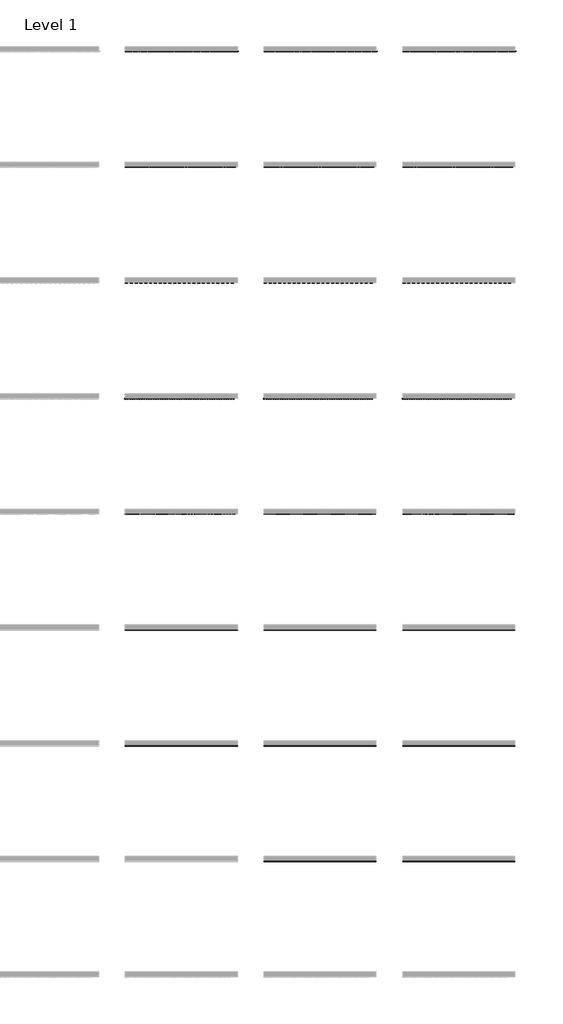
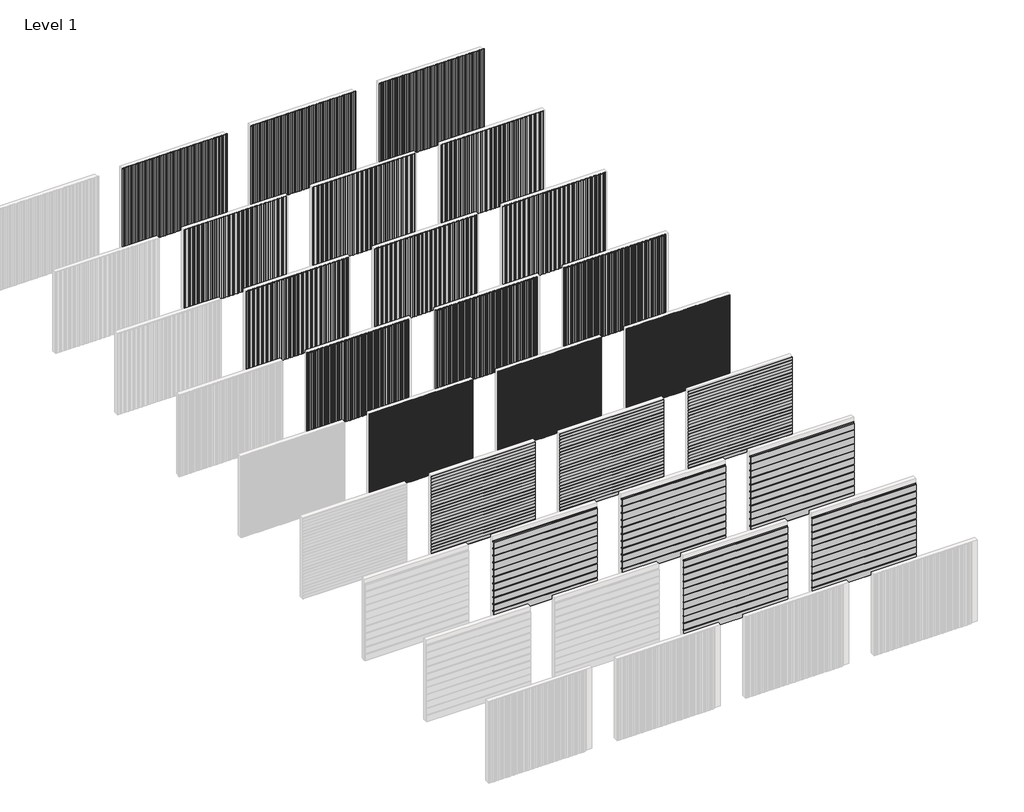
# One storey, part 33 of 33: 23 proxies.
"""IFC4 building model written with IfcOpenShell, lengths in millimetres."""

from ifc_helpers import new_model, si_unit, origin, place, context, project, spatial, transform, mapped, element, save
from components import aluminum_slate_gray_4889c0f9, aluminum_slate_gray_53ae1bc5, aluminum_slate_gray_67ce4d6b, titantek_flush_100_aluminum_slate_gray_4e4c1b2d, titantek_flush_150_aluminum_slate_gray_06856ec8, titantek_tsp_12_panel_aluminum_slate_gray_a38cbdb6, titantek_ultra_wave_corrugated_panel_aluminum_slate_gray_bfc90fa9, titantek_ultra_wave_corrugated_panel_aluminum_slate_gray_77245a93, titantek_ultra_wave_corrugated_panel_aluminum_slate_gray_d8f012a7, titantek_wood_louver_system_steel_bone_white_7c2ae0cb

model = new_model("IFC4")

# Units and contexts
model_context = context("Model", 3, world=origin())
ifc_project = project(units=[si_unit("LENGTHUNIT", "METRE", prefix="MILLI")], contexts=[model_context])

# Site, building, storey
site = spatial("IfcSite", under=ifc_project)
building = spatial("IfcBuilding", under=site)
storey = spatial("IfcBuildingStorey", under=building, Name="Level 1", Elevation=0.0)

# Proxies
placement = place(None, origin())
aluminum_slate_gray_shape = aluminum_slate_gray_4889c0f9(model_context)
element("IfcBuildingElementProxy", 1, Name="TITANTEK DV 1 VariPanel : Steel Bone White", ObjectType="TITANTEK DV 1 VariPanel : Steel Bone White", at=placement, inside=storey, context=model_context, shape_type="MappedRepresentation", body=[
    mapped(aluminum_slate_gray_shape, transform((15639.4102183, 122078.6095025, 0.0), x_axis=(1.0, 0.0, 0.0), y_axis=(0.0, 1.0, 0.0), z_axis=(0.0, 0.0, 1.0))),
])
aluminum_slate_gray_2_shape = aluminum_slate_gray_53ae1bc5(model_context)
element("IfcBuildingElementProxy", 2, Name="TITANTEK DV 2 VariPanel : Steel Bone White", ObjectType="TITANTEK DV 2 VariPanel : Steel Bone White", at=placement, inside=storey, context=model_context, shape_type="MappedRepresentation", body=[
    mapped(aluminum_slate_gray_2_shape, transform((15639.4102183, 127078.6095025, 0.0), x_axis=(1.0, 0.0, 0.0), y_axis=(0.0, 1.0, 0.0), z_axis=(0.0, 0.0, 1.0))),
])
aluminum_slate_gray_3_shape = aluminum_slate_gray_67ce4d6b(model_context)
element("IfcBuildingElementProxy", 3, Name="TITANTEK DV 3 VariPanel : Steel Bone White", ObjectType="TITANTEK DV 3 VariPanel : Steel Bone White", at=placement, inside=storey, context=model_context, shape_type="MappedRepresentation", body=[
    mapped(aluminum_slate_gray_3_shape, transform((15639.4102183, 132078.6095025, 0.0), x_axis=(1.0, 0.0, 0.0), y_axis=(0.0, 1.0, 0.0), z_axis=(0.0, 0.0, 1.0))),
])
element("IfcBuildingElementProxy", 4, Name="TITANTEK DV 1 VariPanel : Steel Hemlock Green", ObjectType="TITANTEK DV 1 VariPanel : Steel Hemlock Green", at=placement, inside=storey, context=model_context, shape_type="MappedRepresentation", body=[
    mapped(aluminum_slate_gray_shape, transform((9639.4102183, 122078.6095025, 0.0), x_axis=(1.0, 0.0, 0.0), y_axis=(0.0, 1.0, 0.0), z_axis=(0.0, 0.0, 1.0))),
])
element("IfcBuildingElementProxy", 5, Name="TITANTEK DV 2 VariPanel : Steel Hemlock Green", ObjectType="TITANTEK DV 2 VariPanel : Steel Hemlock Green", at=placement, inside=storey, context=model_context, shape_type="MappedRepresentation", body=[
    mapped(aluminum_slate_gray_2_shape, transform((9639.4102183, 127078.6095025, 0.0), x_axis=(1.0, 0.0, 0.0), y_axis=(0.0, 1.0, 0.0), z_axis=(0.0, 0.0, 1.0))),
])
element("IfcBuildingElementProxy", 6, Name="TITANTEK DV 3 VariPanel : Steel Hemlock Green", ObjectType="TITANTEK DV 3 VariPanel : Steel Hemlock Green", at=placement, inside=storey, context=model_context, shape_type="MappedRepresentation", body=[
    mapped(aluminum_slate_gray_3_shape, transform((9639.4102183, 132078.6095025, 0.0), x_axis=(1.0, 0.0, 0.0), y_axis=(0.0, 1.0, 0.0), z_axis=(0.0, 0.0, 1.0))),
])
element("IfcBuildingElementProxy", 7, Name="TITANTEK DV 1 VariPanel : Steel Regal Red", ObjectType="TITANTEK DV 1 VariPanel : Steel Regal Red", at=placement, inside=storey, context=model_context, shape_type="MappedRepresentation", body=[
    mapped(aluminum_slate_gray_shape, transform((3639.4102183, 122078.6095025, 0.0), x_axis=(1.0, 0.0, 0.0), y_axis=(0.0, 1.0, 0.0), z_axis=(0.0, 0.0, 1.0))),
])
element("IfcBuildingElementProxy", 8, Name="TITANTEK DV 2 VariPanel : Steel Regal Red", ObjectType="TITANTEK DV 2 VariPanel : Steel Regal Red", at=placement, inside=storey, context=model_context, shape_type="MappedRepresentation", body=[
    mapped(aluminum_slate_gray_2_shape, transform((3639.4102183, 127078.6095025, 0.0), x_axis=(1.0, 0.0, 0.0), y_axis=(0.0, 1.0, 0.0), z_axis=(0.0, 0.0, 1.0))),
])
element("IfcBuildingElementProxy", 9, Name="TITANTEK DV 3 VariPanel : Steel Regal Red", ObjectType="TITANTEK DV 3 VariPanel : Steel Regal Red", at=placement, inside=storey, context=model_context, shape_type="MappedRepresentation", body=[
    mapped(aluminum_slate_gray_3_shape, transform((3639.4102183, 132078.6095025, 0.0), x_axis=(1.0, 0.0, 0.0), y_axis=(0.0, 1.0, 0.0), z_axis=(0.0, 0.0, 1.0))),
])
titantek_flush_100_aluminum_slate_gray_shape = titantek_flush_100_aluminum_slate_gray_4e4c1b2d(model_context)
element("IfcBuildingElementProxy", 10, Name="TitanTek Flush 100 : Steel Bone White", ObjectType="TitanTek Flush 100 : Steel Bone White", at=placement, inside=storey, context=model_context, shape_type="MappedRepresentation", body=[
    mapped(titantek_flush_100_aluminum_slate_gray_shape, transform((15639.4102183, 97064.917315, 0.0), x_axis=(1.0, 0.0, 0.0), y_axis=(0.0, 1.0, 0.0), z_axis=(0.0, 0.0, 1.0))),
])
element("IfcBuildingElementProxy", 11, Name="TitanTek Flush 100 : Steel Hemlock Green", ObjectType="TitanTek Flush 100 : Steel Hemlock Green", at=placement, inside=storey, context=model_context, shape_type="MappedRepresentation", body=[
    mapped(titantek_flush_100_aluminum_slate_gray_shape, transform((9639.4102183, 97064.917315, 0.0), x_axis=(1.0, 0.0, 0.0), y_axis=(0.0, 1.0, 0.0), z_axis=(0.0, 0.0, 1.0))),
])
titantek_flush_150_aluminum_slate_gray_shape = titantek_flush_150_aluminum_slate_gray_06856ec8(model_context)
element("IfcBuildingElementProxy", 12, Name="TitanTek Flush 150 : Steel Bone White", ObjectType="TitanTek Flush 150 : Steel Bone White", at=placement, inside=storey, context=model_context, shape_type="MappedRepresentation", body=[
    mapped(titantek_flush_150_aluminum_slate_gray_shape, transform((15639.4102183, 102064.917315, 0.0), x_axis=(1.0, 0.0, 0.0), y_axis=(0.0, 1.0, 0.0), z_axis=(0.0, 0.0, 1.0))),
])
element("IfcBuildingElementProxy", 13, Name="TitanTek Flush 150 : Steel Hemlock Green", ObjectType="TitanTek Flush 150 : Steel Hemlock Green", at=placement, inside=storey, context=model_context, shape_type="MappedRepresentation", body=[
    mapped(titantek_flush_150_aluminum_slate_gray_shape, transform((9639.4102183, 102064.917315, 0.0), x_axis=(1.0, 0.0, 0.0), y_axis=(0.0, 1.0, 0.0), z_axis=(0.0, 0.0, 1.0))),
])
element("IfcBuildingElementProxy", 14, Name="TitanTek Flush 150 : Steel Regal Red", ObjectType="TitanTek Flush 150 : Steel Regal Red", at=placement, inside=storey, context=model_context, shape_type="MappedRepresentation", body=[
    mapped(titantek_flush_150_aluminum_slate_gray_shape, transform((3639.4102183, 102064.917315, 0.0), x_axis=(1.0, 0.0, 0.0), y_axis=(0.0, 1.0, 0.0), z_axis=(0.0, 0.0, 1.0))),
])
titantek_tsp_12_panel_aluminum_slate_gray_shape = titantek_tsp_12_panel_aluminum_slate_gray_a38cbdb6(model_context)
element("IfcBuildingElementProxy", 15, Name="TitanTek TSP-12 Panel : Steel Bone White", ObjectType="TitanTek TSP-12 Panel : Steel Bone White", at=placement, inside=storey, context=model_context, shape_type="MappedRepresentation", body=[
    mapped(titantek_tsp_12_panel_aluminum_slate_gray_shape, transform((15639.4102183, 107078.6095025, 0.0), x_axis=(1.0, 0.0, 0.0), y_axis=(0.0, 1.0, 0.0), z_axis=(0.0, 0.0, 1.0))),
])
element("IfcBuildingElementProxy", 16, Name="TitanTek TSP-12 Panel : Steel Hemlock Green", ObjectType="TitanTek TSP-12 Panel : Steel Hemlock Green", at=placement, inside=storey, context=model_context, shape_type="MappedRepresentation", body=[
    mapped(titantek_tsp_12_panel_aluminum_slate_gray_shape, transform((9639.4102183, 107078.6095025, 0.0), x_axis=(1.0, 0.0, 0.0), y_axis=(0.0, 1.0, 0.0), z_axis=(0.0, 0.0, 1.0))),
])
element("IfcBuildingElementProxy", 17, Name="TitanTek TSP-12 Panel : Steel Regal Red", ObjectType="TitanTek TSP-12 Panel : Steel Regal Red", at=placement, inside=storey, context=model_context, shape_type="MappedRepresentation", body=[
    mapped(titantek_tsp_12_panel_aluminum_slate_gray_shape, transform((3639.4102183, 107078.6095025, 0.0), x_axis=(1.0, 0.0, 0.0), y_axis=(0.0, 1.0, 0.0), z_axis=(0.0, 0.0, 1.0))),
])
titantek_ultra_wave_corrugated_panel_aluminum_slate_gray_shape = titantek_ultra_wave_corrugated_panel_aluminum_slate_gray_bfc90fa9(model_context)
titantek_ultra_wave_corrugated_panel_aluminum_slate_gray_2_shape = titantek_ultra_wave_corrugated_panel_aluminum_slate_gray_77245a93(model_context)
titantek_ultra_wave_corrugated_panel_aluminum_slate_gray_3_shape = titantek_ultra_wave_corrugated_panel_aluminum_slate_gray_d8f012a7(model_context)
element("IfcBuildingElementProxy", 18, Name="TitanTek ULTRA WAVE Corrugated Panel : Steel Bone White", ObjectType="TitanTek ULTRA WAVE Corrugated Panel : Steel Bone White", at=placement, inside=storey, context=model_context, shape_type="MappedRepresentation", body=[
    mapped(titantek_ultra_wave_corrugated_panel_aluminum_slate_gray_shape, transform((15639.4102183, 112078.6095025, 0.0), x_axis=(1.0, 0.0, 0.0), y_axis=(0.0, 1.0, 0.0), z_axis=(0.0, 0.0, 1.0))),
    mapped(titantek_ultra_wave_corrugated_panel_aluminum_slate_gray_2_shape, transform((15639.4102183, 112078.6095025, 0.0), x_axis=(1.0, 0.0, 0.0), y_axis=(0.0, 1.0, 0.0), z_axis=(0.0, 0.0, 1.0))),
    mapped(titantek_ultra_wave_corrugated_panel_aluminum_slate_gray_3_shape, transform((15639.4102183, 112078.6095025, 0.0), x_axis=(1.0, 0.0, 0.0), y_axis=(0.0, 1.0, 0.0), z_axis=(0.0, 0.0, 1.0))),
])
element("IfcBuildingElementProxy", 19, Name="TitanTek ULTRA WAVE Corrugated Panel : Steel Hemlock Green", ObjectType="TitanTek ULTRA WAVE Corrugated Panel : Steel Hemlock Green", at=placement, inside=storey, context=model_context, shape_type="MappedRepresentation", body=[
    mapped(titantek_ultra_wave_corrugated_panel_aluminum_slate_gray_shape, transform((9639.4102183, 112078.6095025, 0.0), x_axis=(1.0, 0.0, 0.0), y_axis=(0.0, 1.0, 0.0), z_axis=(0.0, 0.0, 1.0))),
    mapped(titantek_ultra_wave_corrugated_panel_aluminum_slate_gray_2_shape, transform((9639.4102183, 112078.6095025, 0.0), x_axis=(1.0, 0.0, 0.0), y_axis=(0.0, 1.0, 0.0), z_axis=(0.0, 0.0, 1.0))),
    mapped(titantek_ultra_wave_corrugated_panel_aluminum_slate_gray_3_shape, transform((9639.4102183, 112078.6095025, 0.0), x_axis=(1.0, 0.0, 0.0), y_axis=(0.0, 1.0, 0.0), z_axis=(0.0, 0.0, 1.0))),
])
element("IfcBuildingElementProxy", 20, Name="TitanTek ULTRA WAVE Corrugated Panel : Steel Regal Red", ObjectType="TitanTek ULTRA WAVE Corrugated Panel : Steel Regal Red", at=placement, inside=storey, context=model_context, shape_type="MappedRepresentation", body=[
    mapped(titantek_ultra_wave_corrugated_panel_aluminum_slate_gray_shape, transform((3639.4102183, 112078.6095025, 0.0), x_axis=(1.0, 0.0, 0.0), y_axis=(0.0, 1.0, 0.0), z_axis=(0.0, 0.0, 1.0))),
    mapped(titantek_ultra_wave_corrugated_panel_aluminum_slate_gray_2_shape, transform((3639.4102183, 112078.6095025, 0.0), x_axis=(1.0, 0.0, 0.0), y_axis=(0.0, 1.0, 0.0), z_axis=(0.0, 0.0, 1.0))),
    mapped(titantek_ultra_wave_corrugated_panel_aluminum_slate_gray_3_shape, transform((3639.4102183, 112078.6095025, 0.0), x_axis=(1.0, 0.0, 0.0), y_axis=(0.0, 1.0, 0.0), z_axis=(0.0, 0.0, 1.0))),
])
titantek_wood_louver_system_steel_bone_white_shape = titantek_wood_louver_system_steel_bone_white_7c2ae0cb(model_context)
element("IfcBuildingElementProxy", 21, Name="TitanTek WOOD LOUVER System : Steel Bone White", ObjectType="TitanTek WOOD LOUVER System : Steel Bone White", at=placement, inside=storey, context=model_context, shape_type="MappedRepresentation", body=[
    mapped(titantek_wood_louver_system_steel_bone_white_shape, transform((15639.4102183, 117078.6095025, 0.0), x_axis=(1.0, 0.0, 0.0), y_axis=(0.0, 1.0, 0.0), z_axis=(0.0, 0.0, 1.0))),
])
element("IfcBuildingElementProxy", 22, Name="TitanTek WOOD LOUVER System : Steel Hemlock Green", ObjectType="TitanTek WOOD LOUVER System : Steel Hemlock Green", at=placement, inside=storey, context=model_context, shape_type="MappedRepresentation", body=[
    mapped(titantek_wood_louver_system_steel_bone_white_shape, transform((9639.4102183, 117078.6095025, 0.0), x_axis=(1.0, 0.0, 0.0), y_axis=(0.0, 1.0, 0.0), z_axis=(0.0, 0.0, 1.0))),
])
element("IfcBuildingElementProxy", 23, Name="TitanTek WOOD LOUVER System : Steel Regal Red", ObjectType="TitanTek WOOD LOUVER System : Steel Regal Red", at=placement, inside=storey, context=model_context, shape_type="MappedRepresentation", body=[
    mapped(titantek_wood_louver_system_steel_bone_white_shape, transform((3639.4102183, 117078.6095025, 0.0), x_axis=(1.0, 0.0, 0.0), y_axis=(0.0, 1.0, 0.0), z_axis=(0.0, 0.0, 1.0))),
])

save(model, "model.ifc")
